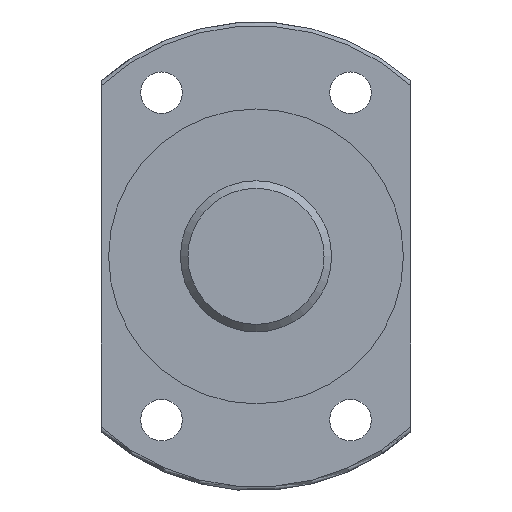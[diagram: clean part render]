
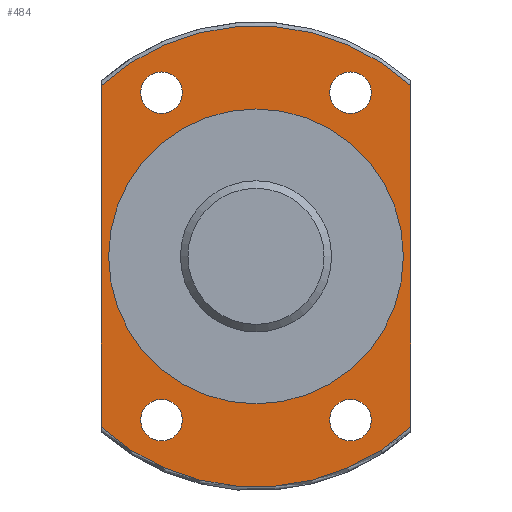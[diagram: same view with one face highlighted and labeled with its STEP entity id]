
A CAD part, left-side view. The second image highlights one B-rep face of the part: STEP entity #484.
In plain terms, the highlighted planar face has unit normal (-1, 0, 0).
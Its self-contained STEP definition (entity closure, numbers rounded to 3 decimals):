
#72=LINE('',#775,#80);
#73=LINE('',#779,#81);
#80=VECTOR('',#658,1000.);
#81=VECTOR('',#661,1000.);
#132=ORIENTED_EDGE('',*,*,#225,.T.);
#133=ORIENTED_EDGE('',*,*,#235,.F.);
#134=ORIENTED_EDGE('',*,*,#236,.F.);
#135=ORIENTED_EDGE('',*,*,#237,.F.);
#136=ORIENTED_EDGE('',*,*,#238,.T.);
#137=ORIENTED_EDGE('',*,*,#234,.F.);
#138=ORIENTED_EDGE('',*,*,#232,.F.);
#139=ORIENTED_EDGE('',*,*,#230,.F.);
#140=ORIENTED_EDGE('',*,*,#228,.F.);
#225=EDGE_CURVE('',#281,#281,#325,.T.);
#228=EDGE_CURVE('',#284,#284,#328,.T.);
#230=EDGE_CURVE('',#286,#286,#330,.T.);
#232=EDGE_CURVE('',#288,#288,#332,.T.);
#234=EDGE_CURVE('',#290,#290,#334,.T.);
#235=EDGE_CURVE('',#291,#292,#335,.T.);
#236=EDGE_CURVE('',#293,#291,#72,.T.);
#237=EDGE_CURVE('',#294,#293,#336,.T.);
#238=EDGE_CURVE('',#294,#292,#73,.T.);
#281=VERTEX_POINT('',#747);
#284=VERTEX_POINT('',#755);
#286=VERTEX_POINT('',#760);
#288=VERTEX_POINT('',#765);
#290=VERTEX_POINT('',#770);
#291=VERTEX_POINT('',#773);
#292=VERTEX_POINT('',#774);
#293=VERTEX_POINT('',#776);
#294=VERTEX_POINT('',#778);
#325=CIRCLE('',#538,19.5);
#328=CIRCLE('',#543,2.75);
#330=CIRCLE('',#546,2.75);
#332=CIRCLE('',#549,2.75);
#334=CIRCLE('',#552,2.75);
#335=CIRCLE('',#554,30.5);
#336=CIRCLE('',#555,30.5);
#374=EDGE_LOOP('',(#132));
#375=EDGE_LOOP('',(#133,#134,#135,#136));
#376=EDGE_LOOP('',(#137));
#377=EDGE_LOOP('',(#138));
#378=EDGE_LOOP('',(#139));
#379=EDGE_LOOP('',(#140));
#430=FACE_BOUND('',#374,.T.);
#431=FACE_BOUND('',#375,.T.);
#432=FACE_BOUND('',#376,.T.);
#433=FACE_BOUND('',#377,.T.);
#434=FACE_BOUND('',#378,.T.);
#435=FACE_BOUND('',#379,.T.);
#462=PLANE('',#553);
#484=ADVANCED_FACE('',(#430,#431,#432,#433,#434,#435),#462,.T.);
#538=AXIS2_PLACEMENT_3D('',#746,#624,#625);
#543=AXIS2_PLACEMENT_3D('',#754,#634,#635);
#546=AXIS2_PLACEMENT_3D('',#759,#640,#641);
#549=AXIS2_PLACEMENT_3D('',#764,#646,#647);
#552=AXIS2_PLACEMENT_3D('',#769,#652,#653);
#553=AXIS2_PLACEMENT_3D('',#771,#654,#655);
#554=AXIS2_PLACEMENT_3D('',#772,#656,#657);
#555=AXIS2_PLACEMENT_3D('',#777,#659,#660);
#624=DIRECTION('',(1.,0.,0.));
#625=DIRECTION('',(0.,-1.,0.));
#634=DIRECTION('',(-1.,0.,0.));
#635=DIRECTION('',(0.,-1.,0.));
#640=DIRECTION('',(-1.,0.,0.));
#641=DIRECTION('',(0.,-1.,0.));
#646=DIRECTION('',(-1.,0.,0.));
#647=DIRECTION('',(0.,-1.,0.));
#652=DIRECTION('',(-1.,0.,0.));
#653=DIRECTION('',(0.,-1.,0.));
#654=DIRECTION('',(-1.,0.,0.));
#655=DIRECTION('',(0.,-1.,0.));
#656=DIRECTION('',(1.,0.,0.));
#657=DIRECTION('',(0.,1.,0.));
#658=DIRECTION('',(0.,0.,1.));
#659=DIRECTION('',(1.,0.,0.));
#660=DIRECTION('',(0.,1.,0.));
#661=DIRECTION('',(0.,0.,1.));
#746=CARTESIAN_POINT('',(193.099,105.726,0.));
#747=CARTESIAN_POINT('',(193.099,86.226,0.));
#754=CARTESIAN_POINT('',(193.099,118.226,21.65));
#755=CARTESIAN_POINT('',(193.099,115.476,21.65));
#759=CARTESIAN_POINT('',(193.099,93.226,21.65));
#760=CARTESIAN_POINT('',(193.099,90.476,21.65));
#764=CARTESIAN_POINT('',(193.099,93.226,-21.65));
#765=CARTESIAN_POINT('',(193.099,90.476,-21.65));
#769=CARTESIAN_POINT('',(193.099,118.226,-21.65));
#770=CARTESIAN_POINT('',(193.099,115.476,-21.65));
#771=CARTESIAN_POINT('',(193.099,136.226,0.));
#772=CARTESIAN_POINT('',(193.099,105.726,0.));
#773=CARTESIAN_POINT('',(193.099,126.226,22.583));
#774=CARTESIAN_POINT('',(193.099,85.226,22.583));
#775=CARTESIAN_POINT('',(193.099,126.226,0.));
#776=CARTESIAN_POINT('',(193.099,126.226,-22.583));
#777=CARTESIAN_POINT('',(193.099,105.726,0.));
#778=CARTESIAN_POINT('',(193.099,85.226,-22.583));
#779=CARTESIAN_POINT('',(193.099,85.226,0.));
